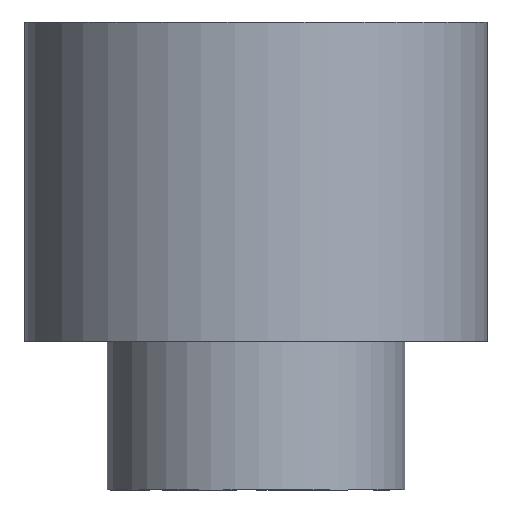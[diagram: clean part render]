
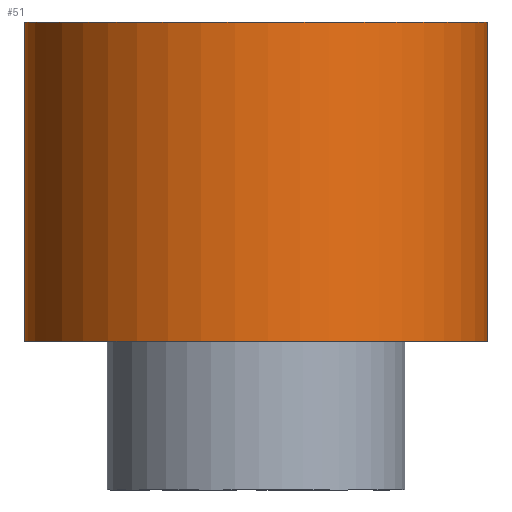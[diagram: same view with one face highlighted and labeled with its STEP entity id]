
A CAD part, front view. The second image highlights one B-rep face of the part: STEP entity #51.
In plain terms, the highlighted free-form (B-spline) face has degree [2, 1] with [7, 2] control points.
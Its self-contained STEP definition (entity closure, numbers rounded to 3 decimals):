
#35 = EDGE_CURVE('',#36,#36,#38,.T.);
#36 = VERTEX_POINT('',#37);
#37 = CARTESIAN_POINT('',(-2.175,0.,3.));
#38 = ( BOUNDED_CURVE() B_SPLINE_CURVE(2,(#39,#40,#41,#42,#43,#44,#45),
.UNSPECIFIED.,.T.,.F.) B_SPLINE_CURVE_WITH_KNOTS((1,2,2,2,2,1),(
    -2.094,0.,2.094,4.189,6.283,
8.378),.UNSPECIFIED.) CURVE() GEOMETRIC_REPRESENTATION_ITEM() 
RATIONAL_B_SPLINE_CURVE((1.,0.5,1.,0.5,1.,0.5,1.)) REPRESENTATION_ITEM(
  '') );
#39 = CARTESIAN_POINT('',(-2.175,0.,3.));
#40 = CARTESIAN_POINT('',(-2.175,3.767,3.));
#41 = CARTESIAN_POINT('',(1.088,1.884,3.));
#42 = CARTESIAN_POINT('',(4.35,0.,3.));
#43 = CARTESIAN_POINT('',(1.088,-1.884,3.));
#44 = CARTESIAN_POINT('',(-2.175,-3.767,3.));
#45 = CARTESIAN_POINT('',(-2.175,0.,3.));
#51 = ADVANCED_FACE('',(#52),#73,.T.);
#52 = FACE_BOUND('',#53,.T.);
#53 = EDGE_LOOP('',(#54,#66,#71,#72));
#54 = ORIENTED_EDGE('',*,*,#55,.F.);
#55 = EDGE_CURVE('',#56,#56,#58,.T.);
#56 = VERTEX_POINT('',#57);
#57 = CARTESIAN_POINT('',(-2.175,0.,0.));
#58 = ( BOUNDED_CURVE() B_SPLINE_CURVE(2,(#59,#60,#61,#62,#63,#64,#65),
.UNSPECIFIED.,.T.,.F.) B_SPLINE_CURVE_WITH_KNOTS((1,2,2,2,2,1),(
    -2.094,0.,2.094,4.189,6.283,
8.378),.UNSPECIFIED.) CURVE() GEOMETRIC_REPRESENTATION_ITEM() 
RATIONAL_B_SPLINE_CURVE((1.,0.5,1.,0.5,1.,0.5,1.)) REPRESENTATION_ITEM(
  '') );
#59 = CARTESIAN_POINT('',(-2.175,0.,0.));
#60 = CARTESIAN_POINT('',(-2.175,3.767,0.));
#61 = CARTESIAN_POINT('',(1.088,1.884,0.));
#62 = CARTESIAN_POINT('',(4.35,0.,0.));
#63 = CARTESIAN_POINT('',(1.088,-1.884,0.));
#64 = CARTESIAN_POINT('',(-2.175,-3.767,0.));
#65 = CARTESIAN_POINT('',(-2.175,0.,0.));
#66 = ORIENTED_EDGE('',*,*,#67,.T.);
#67 = EDGE_CURVE('',#56,#36,#68,.T.);
#68 = B_SPLINE_CURVE_WITH_KNOTS('',1,(#69,#70),.UNSPECIFIED.,.F.,.F.,(2,
    2),(1.4,4.4),.PIECEWISE_BEZIER_KNOTS.);
#69 = CARTESIAN_POINT('',(-2.175,0.,0.));
#70 = CARTESIAN_POINT('',(-2.175,0.,3.));
#71 = ORIENTED_EDGE('',*,*,#35,.T.);
#72 = ORIENTED_EDGE('',*,*,#67,.F.);
#73 = ( BOUNDED_SURFACE() B_SPLINE_SURFACE(2,1,(
    (#74,#75)
    ,(#76,#77)
    ,(#78,#79)
    ,(#80,#81)
    ,(#82,#83)
    ,(#84,#85)
,(#86,#87
    )),.UNSPECIFIED.,.T.,.F.,.F.) B_SPLINE_SURFACE_WITH_KNOTS((1,2,2,2,2
    ,1),(2,2),(-2.094,0.,2.094,4.189,
    6.283,8.378),(1.4,4.4),.UNSPECIFIED.) 
GEOMETRIC_REPRESENTATION_ITEM() RATIONAL_B_SPLINE_SURFACE((
    (1.,1.)
    ,(0.5,0.5)
    ,(1.,1.)
    ,(0.5,0.5)
    ,(1.,1.)
    ,(0.5,0.5)
,(1.,1.))) REPRESENTATION_ITEM('') SURFACE() );
#74 = CARTESIAN_POINT('',(-2.175,0.,0.));
#75 = CARTESIAN_POINT('',(-2.175,0.,3.));
#76 = CARTESIAN_POINT('',(-2.175,-3.767,0.));
#77 = CARTESIAN_POINT('',(-2.175,-3.767,3.));
#78 = CARTESIAN_POINT('',(1.088,-1.884,0.));
#79 = CARTESIAN_POINT('',(1.088,-1.884,3.));
#80 = CARTESIAN_POINT('',(4.35,0.,0.));
#81 = CARTESIAN_POINT('',(4.35,0.,3.));
#82 = CARTESIAN_POINT('',(1.088,1.884,0.));
#83 = CARTESIAN_POINT('',(1.088,1.884,3.));
#84 = CARTESIAN_POINT('',(-2.175,3.767,0.));
#85 = CARTESIAN_POINT('',(-2.175,3.767,3.));
#86 = CARTESIAN_POINT('',(-2.175,0.,0.));
#87 = CARTESIAN_POINT('',(-2.175,0.,3.));
